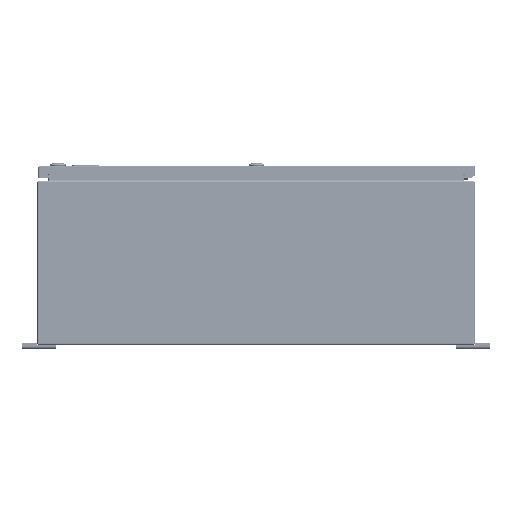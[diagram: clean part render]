
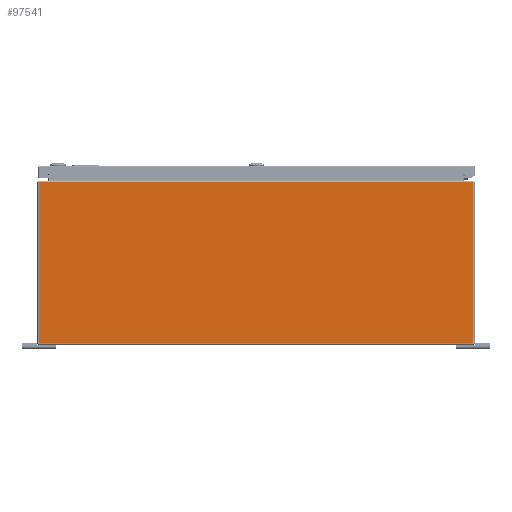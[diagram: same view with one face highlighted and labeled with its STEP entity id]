
A CAD part, left-side view. The second image highlights one B-rep face of the part: STEP entity #97541.
In plain terms, the highlighted planar face has unit normal (-1, 0, 0).
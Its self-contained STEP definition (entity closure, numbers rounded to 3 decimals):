
#5682=PLANE('',#104642);
#8224=LINE('',#139653,#15960);
#8225=LINE('',#139657,#15961);
#8226=LINE('',#139659,#15962);
#8227=LINE('',#139661,#15963);
#8228=LINE('',#139663,#15964);
#8229=LINE('',#139664,#15965);
#15960=VECTOR('',#113849,0.394);
#15961=VECTOR('',#113854,0.394);
#15962=VECTOR('',#113855,0.394);
#15963=VECTOR('',#113856,0.394);
#15964=VECTOR('',#113857,0.394);
#15965=VECTOR('',#113858,0.394);
#25238=FACE_OUTER_BOUND('',#31066,.T.);
#31066=EDGE_LOOP('',(#66339,#66340,#66341,#66342,#66343,#66344));
#41389=VERTEX_POINT('',#139635);
#41396=VERTEX_POINT('',#139652);
#41397=VERTEX_POINT('',#139656);
#41398=VERTEX_POINT('',#139658);
#41399=VERTEX_POINT('',#139660);
#41400=VERTEX_POINT('',#139662);
#51094=EDGE_CURVE('',#41389,#41396,#8224,.T.);
#51096=EDGE_CURVE('',#41397,#41389,#8225,.T.);
#51097=EDGE_CURVE('',#41397,#41398,#8226,.T.);
#51098=EDGE_CURVE('',#41399,#41398,#8227,.T.);
#51099=EDGE_CURVE('',#41400,#41399,#8228,.T.);
#51100=EDGE_CURVE('',#41400,#41396,#8229,.T.);
#66339=ORIENTED_EDGE('',*,*,#51096,.F.);
#66340=ORIENTED_EDGE('',*,*,#51097,.T.);
#66341=ORIENTED_EDGE('',*,*,#51098,.F.);
#66342=ORIENTED_EDGE('',*,*,#51099,.F.);
#66343=ORIENTED_EDGE('',*,*,#51100,.T.);
#66344=ORIENTED_EDGE('',*,*,#51094,.F.);
#97541=ADVANCED_FACE('',(#25238),#5682,.F.);
#104642=AXIS2_PLACEMENT_3D('',#139655,#113852,#113853);
#113849=DIRECTION('',(0.,0.,-1.));
#113852=DIRECTION('center_axis',(1.,0.,0.));
#113853=DIRECTION('ref_axis',(0.,0.,-1.));
#113854=DIRECTION('',(0.,-1.,0.));
#113855=DIRECTION('',(0.,1.,0.));
#113856=DIRECTION('',(0.,-1.,0.));
#113857=DIRECTION('',(0.,0.,1.));
#113858=DIRECTION('',(0.,-1.,0.));
#139635=CARTESIAN_POINT('',(-21.,-15.901,11.901));
#139652=CARTESIAN_POINT('',(-21.,-15.901,0.099));
#139653=CARTESIAN_POINT('',(-21.,-15.901,6.));
#139655=CARTESIAN_POINT('Origin',(-21.,0.,6.));
#139656=CARTESIAN_POINT('',(-21.,-15.126,11.901));
#139657=CARTESIAN_POINT('',(-21.,-7.975,11.901));
#139658=CARTESIAN_POINT('',(-21.,15.126,11.901));
#139659=CARTESIAN_POINT('',(-21.,7.955,11.901));
#139660=CARTESIAN_POINT('',(-21.,15.901,11.901));
#139661=CARTESIAN_POINT('',(-21.,-7.975,11.901));
#139662=CARTESIAN_POINT('',(-21.,15.901,0.099));
#139663=CARTESIAN_POINT('',(-21.,15.901,6.));
#139664=CARTESIAN_POINT('',(-21.,8.,0.099));
